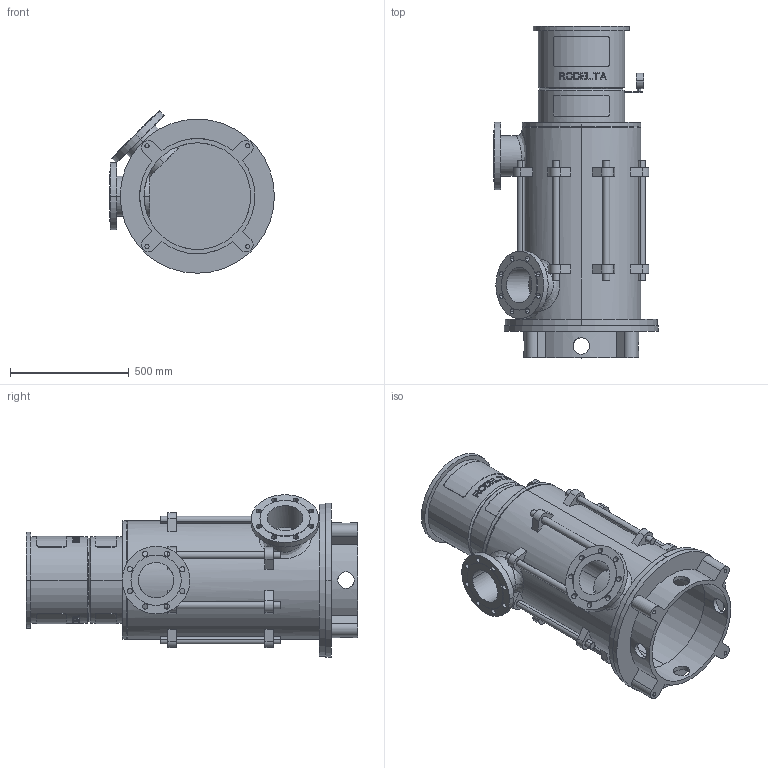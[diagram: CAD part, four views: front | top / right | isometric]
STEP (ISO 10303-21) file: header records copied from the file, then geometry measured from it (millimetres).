
FILE_DESCRIPTION((''),'2;1');
FILE_NAME('LS6_3TR_0GR_TOT_30KW','2023-08-15T',('Lyritlocal'),(''),'PRO/ENGINEER BY PARAMETRIC TECHNOLOGY CORPORATION, 2016360','PRO/ENGINEER BY PARAMETRIC TECHNOLOGY CORPORATION, 2016360','');
FILE_SCHEMA(('CONFIG_CONTROL_DESIGN'));
Length unit declared in the file: millimetre
Products named in the file (1): LS6_3TR_0GR_TOT_30KW
Bounding box: 695 x 1399 x 685.27 mm (x, y, z)
Volume: 43806528.2 mm3; surface area: 5935224.1 mm2
Topology: 3 solids, 7 shells, 684 faces, 1767 edges, 1174 vertices
Faces by surface type: plane 422, cylinder 242, cone 12, bspline 8
Entity records: 22641 total; most frequent: CARTESIAN_POINT 6029, ORIENTED_EDGE 3518, DIRECTION 3273, EDGE_CURVE 1767, AXIS2_PLACEMENT_3D 1237, VERTEX_POINT 1174, EDGE_LOOP 829, VECTOR 799
